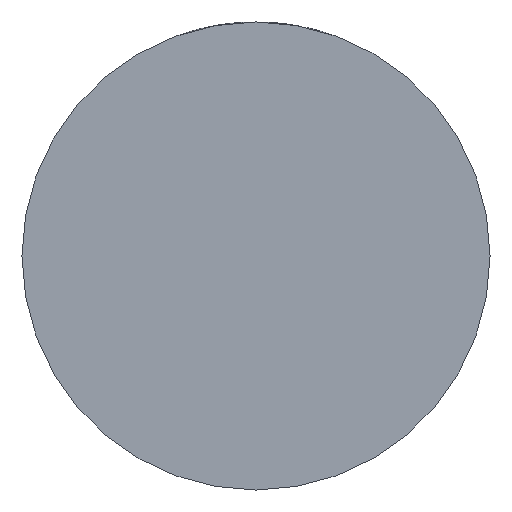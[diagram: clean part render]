
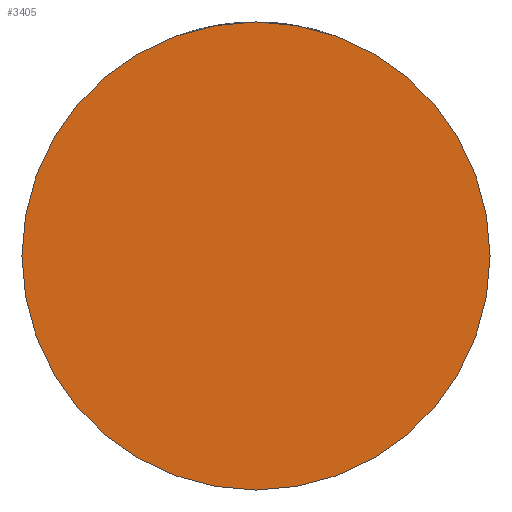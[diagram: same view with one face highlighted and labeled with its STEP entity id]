
A CAD part, front view. The second image highlights one B-rep face of the part: STEP entity #3405.
In plain terms, the highlighted planar face has unit normal (0, -1, 0).
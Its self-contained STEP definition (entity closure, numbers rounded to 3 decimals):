
#125 = ORIENTED_EDGE ( 'NONE', *, *, #3168, .T. ) ;
#184 = CARTESIAN_POINT ( 'NONE',  ( -32.5, -26., 0. ) ) ;
#546 = DIRECTION ( 'NONE',  ( 1., 0., 0. ) ) ;
#681 = CARTESIAN_POINT ( 'NONE',  ( 0., -26., 0. ) ) ;
#796 = EDGE_CURVE ( 'NONE', #3231, #2473, #2911, .T. ) ;
#804 = CIRCLE ( 'NONE', #941, 32.5 ) ;
#941 = AXIS2_PLACEMENT_3D ( 'NONE', #1465, #2180, #546 ) ;
#1465 = CARTESIAN_POINT ( 'NONE',  ( 0., -26., 0. ) ) ;
#1624 = ORIENTED_EDGE ( 'NONE', *, *, #796, .T. ) ;
#1651 = DIRECTION ( 'NONE',  ( 0., -1., 0. ) ) ;
#1990 = DIRECTION ( 'NONE',  ( 1., 0., 0. ) ) ;
#2051 = DIRECTION ( 'NONE',  ( 1., 0., 0. ) ) ;
#2180 = DIRECTION ( 'NONE',  ( 0., -1., 0. ) ) ;
#2354 = PLANE ( 'NONE',  #3071 ) ;
#2400 = DIRECTION ( 'NONE',  ( 0., -1., 0. ) ) ;
#2473 = VERTEX_POINT ( 'NONE', #184 ) ;
#2649 = FACE_OUTER_BOUND ( 'NONE', #3770, .T. ) ;
#2911 = CIRCLE ( 'NONE', #3055, 32.5 ) ;
#3055 = AXIS2_PLACEMENT_3D ( 'NONE', #681, #2400, #1990 ) ;
#3071 = AXIS2_PLACEMENT_3D ( 'NONE', #3713, #1651, #2051 ) ;
#3168 = EDGE_CURVE ( 'NONE', #2473, #3231, #804, .T. ) ;
#3231 = VERTEX_POINT ( 'NONE', #3542 ) ;
#3405 = ADVANCED_FACE ( 'NONE', ( #2649 ), #2354, .T. ) ;
#3542 = CARTESIAN_POINT ( 'NONE',  ( 32.5, -26., 0. ) ) ;
#3713 = CARTESIAN_POINT ( 'NONE',  ( 0., -26., 0. ) ) ;
#3770 = EDGE_LOOP ( 'NONE', ( #125, #1624 ) ) ;
